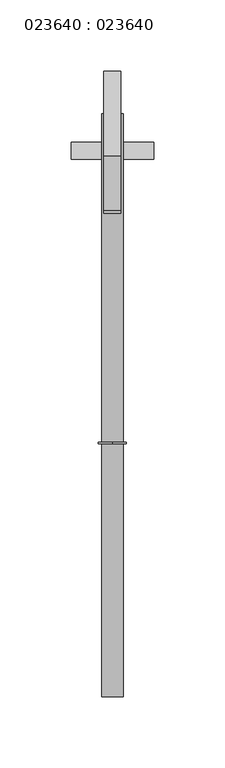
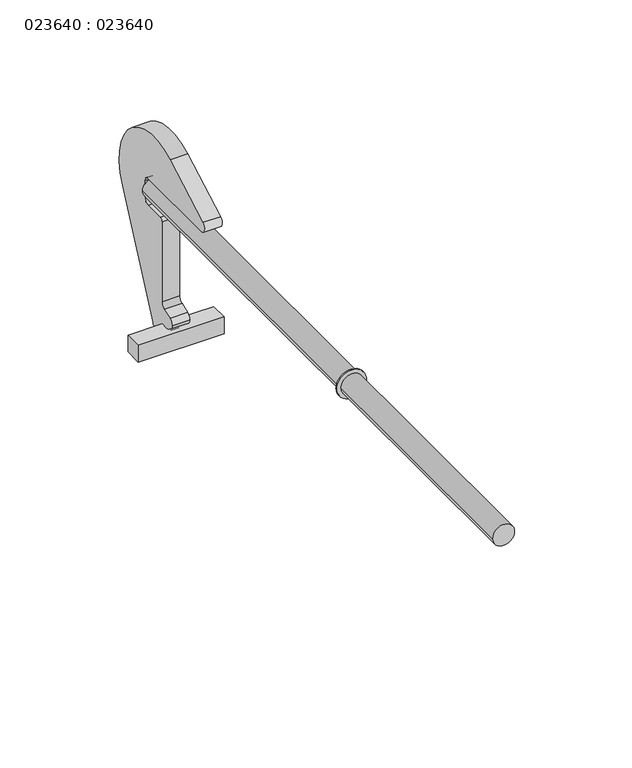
"""IFC4 building model written with IfcOpenShell, lengths in millimetres: proxy geometry, 023640 : 023640."""

from ifc_helpers import new_model, si_unit, point, frame, frame_2d, origin, place, context, project, spatial, polyline, circle_curve, trimmed, segment, composite_curve, outline, extrude, source, transform, mapped, element, save
from ifc_brep_helpers import plane_surface, cylinder_surface, revolved_surface, advanced_brep


def proxy_023640_023640_3e30b286(model_context):
    return source(origin(), model_context, "Body", "SolidModel", [
        extrude(outline(composite_curve([segment(trimmed(circle_curve(frame_2d((15.0, 0.0)), 10.0), [point((5.0, 0.0))], [point((25.0, 0.0))], False, "CARTESIAN"), True, "CONTINUOUS"), segment(trimmed(circle_curve(frame_2d((15.0, 0.0)), 10.0), [point((25.0, 0.0))], [point((5.0, 0.0))], False, "CARTESIAN"), True, "CONTINUOUS")], self_intersect=False)), frame((0.0, -200.0, 0.0), z_axis=(0.0, 1.0, 0.0), x_axis=(0.0, 0.0, 1.0)), (0.0, 0.0, 1.0), 1.0),
        advanced_brep(
        [(29.015625, -0.0083285, -68.34375), (29.015625, -0.0083285, -80.34375), (29.015625, 11.9916715, -80.34375), (29.015625, 11.9916715, -68.34375), (-28.984375, -0.0083285, -68.34375), (-28.984375, 11.9916715, -68.34375), (-28.984375, 11.9916715, -80.34375), (-28.984375, -0.0083285, -80.34375), (-6.0, 11.9916715, -68.34375), (-6.0, 11.9916715, -74.34375), (6.0, 11.9916715, -74.34375), (6.0, 11.9916715, -68.34375), (6.0, 6.3861203, -68.34375), (-6.0, 6.3861203, -68.34375), (6.0, 13.9916715, -76.34375), (6.0, 17.9916715, -76.34375), (6.0, 22.5190078, -73.4658307), (6.0, 58.2103615, 2.6796043), (6.0, 2.5164953, 54.595018), (6.0, -35.9562276, 33.1499842), (6.0, -34.0082257, 25.6542438), (6.0, 27.9868671, 25.6542438), (6.0, 31.9823266, 21.6587842), (6.0, 31.9823266, 10.6185136), (6.0, 28.0011485, 6.6373355), (6.0, 13.9869829, 6.6373355), (6.0, 11.9964668, 4.6468194), (6.0, 11.9964668, -52.5420587), (6.0, 9.3618419, -56.303398), (6.0, 2.624807, -58.7530103), (6.0, -0.0083285, -62.512223), (6.0, 1.5614709, -65.6893482), (6.0, 3.9559196, -67.5208753), (-6.0, 13.9916715, -76.34375), (-6.0, 3.9559196, -67.5208753), (-6.0, 1.5614709, -65.6893482), (-6.0, -0.0083285, -62.512223), (-6.0, 2.624807, -58.7530101), (-6.0, 9.3618419, -56.303398), (-6.0, 11.9964668, -52.5420587), (-6.0, 11.9964668, 4.6468194), (-6.0, 13.9869829, 6.6373355), (-6.0, 28.0011485, 6.6373355), (-6.0, 31.9823266, 10.6185136), (-6.0, 31.9823266, 21.6587842), (-6.0, 27.9868671, 25.6542438), (-6.0, -34.0082257, 25.6542438), (-6.0, -35.9562276, 33.1499842), (-6.0, 2.5164953, 54.595018), (-6.0, 58.2103615, 2.6796043), (-6.0, 22.5190078, -73.4658307), (-6.0, 17.9916715, -76.34375)],
        [
            (0, 1),
            (1, 2),
            (2, 3),
            (3, 0),
            (4, 5),
            (5, 6),
            (6, 7),
            (7, 4),
            (0, 4),
            (7, 1),
            (6, 2),
            (5, 8),
            (8, 9),
            (9, 10),
            (10, 11),
            (11, 3),
            (11, 12),
            (12, 13),
            (13, 8),
            (14, 15),
            (15, 16, circle_curve(frame((6.0, 17.9916715, -71.34375), z_axis=(1.0, 0.0, 0.0), x_axis=(0.0, 1.0, 0.0)), 5.0)),
            (16, 17),
            (17, 18, circle_curve(frame((6.0, 21.9916715, 19.65625), z_axis=(1.0, 0.0, 0.0), x_axis=(0.0, 1.0, 0.0)), 40.0)),
            (18, 19),
            (19, 20, circle_curve(frame((6.0, -34.0082257, 29.6552385), z_axis=(1.0, 0.0, 0.0), x_axis=(0.0, 1.0, 0.0)), 4.0009948)),
            (20, 21),
            (21, 22, circle_curve(frame((6.0, 27.9868671, 21.6587842), z_axis=(-1.0, 0.0, 0.0), x_axis=(0.0, 1.0, 0.0)), 3.9954595)),
            (22, 23),
            (23, 24, circle_curve(frame((6.0, 28.0011485, 10.6185136), z_axis=(-1.0, 0.0, 0.0), x_axis=(0.0, 1.0, 0.0)), 3.9811781)),
            (24, 25),
            (25, 26, circle_curve(frame((6.0, 13.9869829, 4.6468194), z_axis=(1.0, 0.0, 0.0), x_axis=(0.0, 1.0, 0.0)), 1.9905161)),
            (26, 27),
            (27, 28, circle_curve(frame((6.0, 7.9942041, -52.5420587), z_axis=(-1.0, 0.0, 0.0), x_axis=(0.0, 1.0, 0.0)), 4.0022627)),
            (28, 29),
            (29, 30, circle_curve(frame((6.0, 3.9916715, -62.512223), z_axis=(1.0, 0.0, 0.0), x_axis=(0.0, 1.0, 0.0)), 4.0)),
            (30, 31, circle_curve(frame((6.0, 3.9916715, -62.512223), z_axis=(1.0, 0.0, 0.0), x_axis=(0.0, 1.0, 0.0)), 4.0)),
            (31, 32),
            (32, 12, circle_curve(frame((6.0, 6.3861203, -64.34375), z_axis=(1.0, 0.0, 0.0), x_axis=(0.0, 1.0, 0.0)), 4.0)),
            (10, 14, circle_curve(frame((6.0, 13.9916715, -74.34375), z_axis=(1.0, 0.0, 0.0), x_axis=(0.0, 1.0, 0.0)), 2.0)),
            (33, 9, circle_curve(frame((-6.0, 13.9916715, -74.34375), z_axis=(-1.0, 0.0, 0.0), x_axis=(0.0, 1.0, 0.0)), 2.0)),
            (13, 34, circle_curve(frame((-6.0, 6.3861203, -64.34375), z_axis=(-1.0, 0.0, 0.0), x_axis=(0.0, 1.0, 0.0)), 4.0)),
            (34, 35),
            (35, 36, circle_curve(frame((-6.0, 3.9916715, -62.512223), z_axis=(-1.0, 0.0, 0.0), x_axis=(0.0, 1.0, 0.0)), 4.0)),
            (36, 37, circle_curve(frame((-6.0, 3.9916715, -62.512223), z_axis=(-1.0, 0.0, 0.0), x_axis=(0.0, 1.0, 0.0)), 4.0)),
            (37, 38),
            (38, 39, circle_curve(frame((-6.0, 7.9942041, -52.5420587), z_axis=(1.0, 0.0, 0.0), x_axis=(0.0, 1.0, 0.0)), 4.0022627)),
            (39, 40),
            (40, 41, circle_curve(frame((-6.0, 13.9869829, 4.6468194), z_axis=(-1.0, 0.0, 0.0), x_axis=(0.0, 1.0, 0.0)), 1.9905161)),
            (41, 42),
            (42, 43, circle_curve(frame((-6.0, 28.0011485, 10.6185136), z_axis=(1.0, 0.0, 0.0), x_axis=(0.0, 1.0, 0.0)), 3.9811781)),
            (43, 44),
            (44, 45, circle_curve(frame((-6.0, 27.9868671, 21.6587842), z_axis=(1.0, 0.0, 0.0), x_axis=(0.0, 1.0, 0.0)), 3.9954595)),
            (45, 46),
            (46, 47, circle_curve(frame((-6.0, -34.0082257, 29.6552385), z_axis=(-1.0, 0.0, 0.0), x_axis=(0.0, 1.0, 0.0)), 4.0009948)),
            (47, 48),
            (48, 49, circle_curve(frame((-6.0, 21.9916715, 19.65625), z_axis=(-1.0, 0.0, 0.0), x_axis=(0.0, 1.0, 0.0)), 40.0)),
            (49, 50),
            (50, 51, circle_curve(frame((-6.0, 17.9916715, -71.34375), z_axis=(-1.0, 0.0, 0.0), x_axis=(0.0, 1.0, 0.0)), 5.0)),
            (51, 33),
            (14, 33),
            (51, 15),
            (50, 16),
            (49, 17),
            (48, 18),
            (47, 19),
            (46, 20),
            (45, 21),
            (44, 22),
            (43, 23),
            (42, 24),
            (41, 25),
            (40, 26),
            (39, 27),
            (38, 28),
            (37, 29),
            (36, 30),
            (35, 31),
            (34, 32),
        ],
        [
            plane_surface(frame((29.015625, -0.0083285, -68.34375), z_axis=(1.0, 0.0, 0.0), x_axis=(0.0, 0.0, -1.0))),
            plane_surface(frame((-28.984375, -0.0083285, -68.34375), z_axis=(-1.0, 0.0, 0.0), x_axis=(0.0, 0.0, 1.0))),
            plane_surface(frame((29.015625, -0.0083285, -68.34375), z_axis=(0.0, -1.0, 0.0), x_axis=(-1.0, 0.0, 0.0))),
            plane_surface(frame((29.015625, -0.0083285, -80.34375), z_axis=(0.0, 0.0, -1.0), x_axis=(-1.0, 0.0, 0.0))),
            plane_surface(frame((29.015625, 11.9916715, -80.34375), z_axis=(0.0, 1.0, 0.0), x_axis=(-1.0, 0.0, 0.0))),
            plane_surface(frame((29.015625, 11.9916715, -68.34375), z_axis=(0.0, 0.0, 1.0), x_axis=(-1.0, 0.0, 0.0))),
            plane_surface(frame((6.0, 13.9916715, -76.34375), z_axis=(1.0, 0.0, 0.0), x_axis=(0.0, 1.0, 0.0))),
            plane_surface(frame((-6.0, 13.9916715, -76.34375), z_axis=(-1.0, 0.0, 0.0), x_axis=(0.0, -1.0, 0.0))),
            plane_surface(frame((6.0, 13.9916715, -76.34375), z_axis=(0.0, 0.0, -1.0), x_axis=(-1.0, 0.0, 0.0))),
            cylinder_surface(frame((-6.0, 17.9916715, -71.34375), z_axis=(1.0, 0.0, 0.0), x_axis=(0.0, 1.0, 0.0)), 5.0),
            plane_surface(frame((6.0, 22.5190078, -73.4658307), z_axis=(0.0, 0.9054672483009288, -0.4244161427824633), x_axis=(-1.0, 0.0, 0.0))),
            cylinder_surface(frame((-6.0, 21.9916715, 19.65625), z_axis=(1.0, 0.0, 0.0), x_axis=(0.0, 1.0, 0.0)), 40.0),
            plane_surface(frame((6.0, 2.5164953, 54.595018), z_axis=(0.0, -0.4868794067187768, 0.8734691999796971), x_axis=(-1.0, 0.0, 0.0))),
            cylinder_surface(frame((-6.0, -34.0082257, 29.6552385), z_axis=(1.0, 0.0, 0.0), x_axis=(0.0, 1.0, 0.0)), 4.0009948),
            plane_surface(frame((6.0, -34.0082257, 25.6542438), z_axis=(0.0, 0.0, -1.0), x_axis=(-1.0, 0.0, 0.0))),
            revolved_surface(polyline([(-6.0, 31.9823266, 21.6587842), (6.0, 31.9823266, 21.6587842)]), (-6.0, 27.9868671, 21.6587842), (-1.0, 0.0, 0.0)),
            plane_surface(frame((6.0, 31.9823266, 21.6587842), z_axis=(0.0, -1.0, 0.0), x_axis=(-1.0, 0.0, 0.0))),
            revolved_surface(polyline([(-6.0, 31.9823266, 10.6185136), (6.0, 31.9823266, 10.6185136)]), (-6.0, 28.0011485, 10.6185136), (-1.0, 0.0, 0.0)),
            plane_surface(frame((6.0, 28.0011485, 6.6373355), z_axis=(0.0, 0.0, 1.0), x_axis=(-1.0, 0.0, 0.0))),
            cylinder_surface(frame((-6.0, 13.9869829, 4.6468194), z_axis=(1.0, 0.0, 0.0), x_axis=(0.0, 1.0, 0.0)), 1.9905161),
            plane_surface(frame((6.0, 11.9964668, 4.6468194), z_axis=(0.0, -1.0, 0.0), x_axis=(-1.0, 0.0, 0.0))),
            revolved_surface(polyline([(-6.0, 11.9964668, -52.5420587), (6.0, 11.9964668, -52.5420587)]), (-6.0, 7.9942041, -52.5420587), (-1.0, 0.0, 0.0)),
            plane_surface(frame((6.0, 9.3618419, -56.303398), z_axis=(0.0, -0.34171613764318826, 0.9398032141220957), x_axis=(-1.0, 0.0, 0.0))),
            cylinder_surface(frame((-6.0, 3.9916715, -62.512223), z_axis=(1.0, 0.0, 0.0), x_axis=(0.0, 1.0, 0.0)), 4.0),
            plane_surface(frame((6.0, 1.5614709, -65.6893482), z_axis=(0.0, -0.6075501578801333, -0.7942813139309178), x_axis=(-1.0, 0.0, 0.0))),
            cylinder_surface(frame((-6.0, 6.3861203, -64.34375), z_axis=(1.0, 0.0, 0.0), x_axis=(0.0, 1.0, 0.0)), 4.0),
            cylinder_surface(frame((-6.0, 13.9916715, -74.34375), z_axis=(1.0, 0.0, 0.0), x_axis=(0.0, 1.0, 0.0)), 2.0),
        ],
        [
            (0, [[1, 2, 3, 4]]),
            (1, [[5, 6, 7, 8]]),
            (2, [[-1, 9, -8, 10]]),
            (3, [[-2, -10, -7, 11]]),
            (4, [[-3, -11, -6, 12, 13, 14, 15, 16]]),
            (5, [[-4, -16, 17, 18, 19, -12, -5, -9]]),
            (6, [[20, 21, 22, 23, 24, 25, 26, 27, 28, 29, 30, 31, 32, 33, 34, 35, 36, 37, 38, -17, -15, 39]]),
            (7, [[40, -13, -19, 41, 42, 43, 44, 45, 46, 47, 48, 49, 50, 51, 52, 53, 54, 55, 56, 57, 58, 59]]),
            (8, [[-20, 60, -59, 61]]),
            (9, [[-21, -61, -58, 62]]),
            (10, [[-22, -62, -57, 63]]),
            (11, [[-23, -63, -56, 64]]),
            (12, [[-24, -64, -55, 65]]),
            (13, [[-25, -65, -54, 66]]),
            (14, [[-26, -66, -53, 67]]),
            (15, [[-27, -67, -52, 68]]),
            (16, [[-28, -68, -51, 69]]),
            (17, [[-29, -69, -50, 70]]),
            (18, [[-30, -70, -49, 71]]),
            (19, [[-31, -71, -48, 72]]),
            (20, [[-32, -72, -47, 73]]),
            (21, [[-33, -73, -46, 74]]),
            (22, [[-34, -74, -45, 75]]),
            (23, [[-35, -75, -44, 76]]),
            (23, [[-36, -76, -43, 77]]),
            (24, [[-37, -77, -42, 78]]),
            (25, [[-38, -78, -41, -18]]),
            (26, [[-39, -14, -40, -60]]),
        ],
    ),
        extrude(outline(composite_curve([segment(trimmed(circle_curve(frame_2d((15.15625, 0.015625)), 7.5), [point((15.15625, -7.484375))], [point((15.15625, 7.515625))], False, "CARTESIAN"), True, "CONTINUOUS"), segment(trimmed(circle_curve(frame_2d((15.15625, 0.015625)), 7.5), [point((15.15625, 7.515625))], [point((15.15625, -7.484375))], False, "CARTESIAN"), True, "CONTINUOUS")], self_intersect=False)), frame((0.0, -378.0083285, 0.0), z_axis=(0.0, 1.0, 0.0), x_axis=(0.0, 0.0, 1.0)), (0.0, 0.0, 1.0), 410.0),
    ])


if __name__ == "__main__":
    model = new_model("IFC4")
    model_context = context("Model", 3, world=origin())
    ifc_project = project(units=[si_unit("LENGTHUNIT", "METRE", prefix="MILLI")], contexts=[model_context])
    site = spatial("IfcSite", under=ifc_project)
    building = spatial("IfcBuilding", under=site)
    placement = place(None, origin())
    proxy_023640_023640_shape = proxy_023640_023640_3e30b286(model_context)
    element("IfcBuildingElementProxy", 1, Name="023640 : 023640", ObjectType="023640 : 023640", at=placement, inside=building, context=model_context, shape_type="MappedRepresentation", body=[
        mapped(proxy_023640_023640_shape, transform((0.0, 0.0, 0.0), x_axis=(1.0, 0.0, 0.0), y_axis=(0.0, 1.0, 0.0), z_axis=(0.0, 0.0, 1.0))),
    ])
    save(model, "model.ifc")
